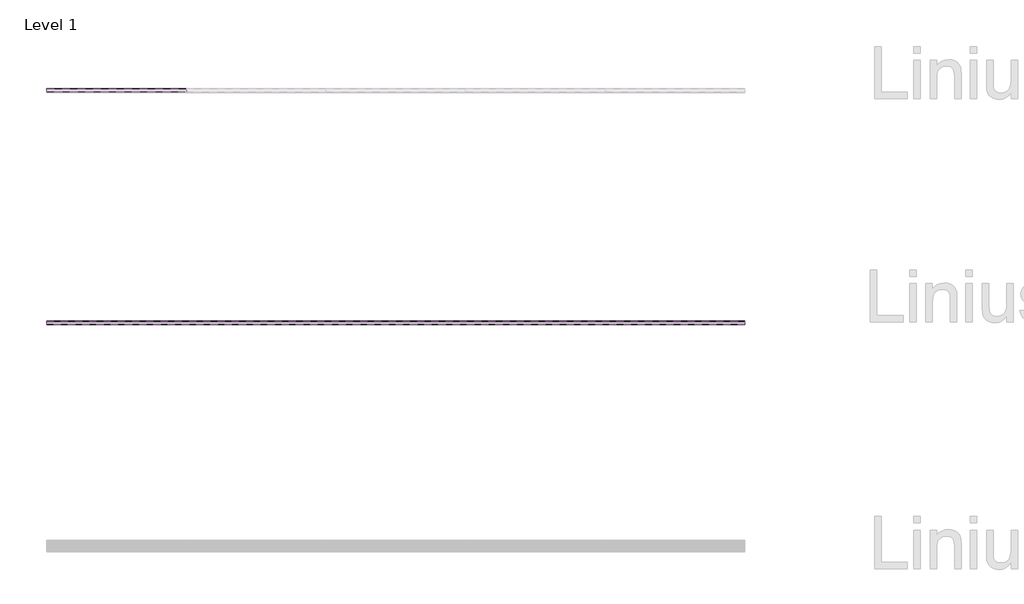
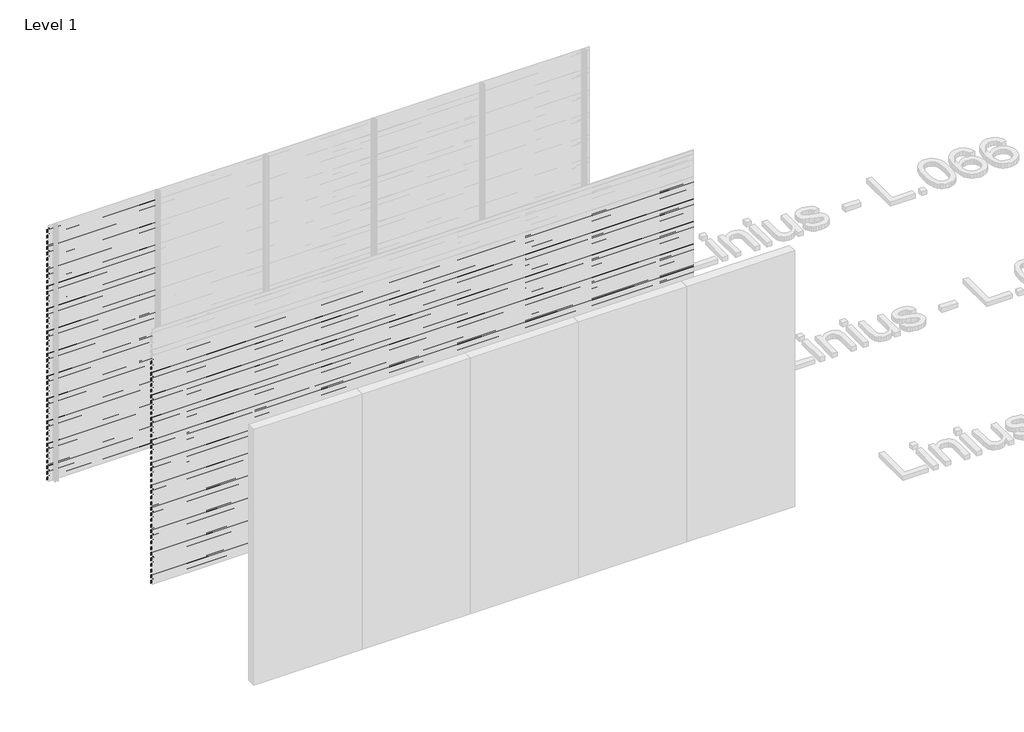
# One storey, part 55 of 540: 85 proxies.
"""IFC4 building model written with IfcOpenShell, lengths in millimetres."""

from ifc_helpers import new_model, si_unit, frame, origin, place, context, project, spatial, polyline, outline, extrude, element, save

model = new_model("IFC4")

# Units and contexts
model_context = context("Model", 3, world=origin())
ifc_project = project(units=[si_unit("LENGTHUNIT", "METRE", prefix="MILLI")], contexts=[model_context])

# Site, building, storey
site = spatial("IfcSite", under=ifc_project)
building = spatial("IfcBuilding", under=site)
storey = spatial("IfcBuildingStorey", under=building, Name="Level 1", Elevation=0.0)

# Proxies
placement = place(None, origin())
element("IfcBuildingElementProxy", 1, Name="Wall Sweeps", at=placement, inside=storey, context=model_context, shape_type="SweptSolid", body=[
    extrude(outline(polyline([(21552.8040136, 2930.0), (21552.8040136, 2897.0), (21551.5540136, 2897.7216933), (21551.5540136, 2929.2872415), (21521.8040136, 2950.0588647), (21521.8040136, 2970.0), (21523.0540136, 2970.0), (21523.0540136, 2950.7716232), (21552.8040136, 2930.0)])), frame((44966.6208097, 0.0, 0.0), z_axis=(1.0, 0.0, 0.0), x_axis=(0.0, 1.0, 0.0)), (0.0, 0.0, 1.0), 1200.0),
])
element("IfcBuildingElementProxy", 2, Name="Wall Sweeps", at=placement, inside=storey, context=model_context, shape_type="SweptSolid", body=[
    extrude(outline(polyline([(21552.8040136, 2864.0), (21552.8040136, 2831.0), (21551.5540136, 2831.7216933), (21551.5540136, 2863.2872415), (21521.8040136, 2884.0588647), (21521.8040136, 2904.0), (21523.0540136, 2904.0), (21523.0540136, 2884.7716232), (21552.8040136, 2864.0)])), frame((44966.6208097, 0.0, 0.0), z_axis=(1.0, 0.0, 0.0), x_axis=(0.0, 1.0, 0.0)), (0.0, 0.0, 1.0), 1200.0),
])
element("IfcBuildingElementProxy", 3, Name="Wall Sweeps", at=placement, inside=storey, context=model_context, shape_type="SweptSolid", body=[
    extrude(outline(polyline([(21552.8040136, 2798.0), (21552.8040136, 2765.0), (21551.5540136, 2765.7216933), (21551.5540136, 2797.2872415), (21521.8040136, 2818.0588647), (21521.8040136, 2838.0), (21523.0540136, 2838.0), (21523.0540136, 2818.7716232), (21552.8040136, 2798.0)])), frame((44966.6208097, 0.0, 0.0), z_axis=(1.0, 0.0, 0.0), x_axis=(0.0, 1.0, 0.0)), (0.0, 0.0, 1.0), 1200.0),
])
element("IfcBuildingElementProxy", 4, Name="Wall Sweeps", at=placement, inside=storey, context=model_context, shape_type="SweptSolid", body=[
    extrude(outline(polyline([(21552.8040136, 2732.0), (21552.8040136, 2699.0), (21551.5540136, 2699.7216933), (21551.5540136, 2731.2872415), (21521.8040136, 2752.0588647), (21521.8040136, 2772.0), (21523.0540136, 2772.0), (21523.0540136, 2752.7716232), (21552.8040136, 2732.0)])), frame((44966.6208097, 0.0, 0.0), z_axis=(1.0, 0.0, 0.0), x_axis=(0.0, 1.0, 0.0)), (0.0, 0.0, 1.0), 1200.0),
])
element("IfcBuildingElementProxy", 5, Name="Wall Sweeps", at=placement, inside=storey, context=model_context, shape_type="SweptSolid", body=[
    extrude(outline(polyline([(21552.8040136, 2666.0), (21552.8040136, 2633.0), (21551.5540136, 2633.7216933), (21551.5540136, 2665.2872415), (21521.8040136, 2686.0588647), (21521.8040136, 2706.0), (21523.0540136, 2706.0), (21523.0540136, 2686.7716232), (21552.8040136, 2666.0)])), frame((44966.6208097, 0.0, 0.0), z_axis=(1.0, 0.0, 0.0), x_axis=(0.0, 1.0, 0.0)), (0.0, 0.0, 1.0), 1200.0),
])
element("IfcBuildingElementProxy", 6, Name="Wall Sweeps", at=placement, inside=storey, context=model_context, shape_type="SweptSolid", body=[
    extrude(outline(polyline([(21552.8040136, 2600.0), (21552.8040136, 2567.0), (21551.5540136, 2567.7216933), (21551.5540136, 2599.2872415), (21521.8040136, 2620.0588647), (21521.8040136, 2640.0), (21523.0540136, 2640.0), (21523.0540136, 2620.7716232), (21552.8040136, 2600.0)])), frame((44966.6208097, 0.0, 0.0), z_axis=(1.0, 0.0, 0.0), x_axis=(0.0, 1.0, 0.0)), (0.0, 0.0, 1.0), 1200.0),
])
element("IfcBuildingElementProxy", 7, Name="Wall Sweeps", at=placement, inside=storey, context=model_context, shape_type="SweptSolid", body=[
    extrude(outline(polyline([(21552.8040136, 2534.0), (21552.8040136, 2501.0), (21551.5540136, 2501.7216933), (21551.5540136, 2533.2872415), (21521.8040136, 2554.0588647), (21521.8040136, 2574.0), (21523.0540136, 2574.0), (21523.0540136, 2554.7716232), (21552.8040136, 2534.0)])), frame((44966.6208097, 0.0, 0.0), z_axis=(1.0, 0.0, 0.0), x_axis=(0.0, 1.0, 0.0)), (0.0, 0.0, 1.0), 1200.0),
])
element("IfcBuildingElementProxy", 8, Name="Wall Sweeps", at=placement, inside=storey, context=model_context, shape_type="SweptSolid", body=[
    extrude(outline(polyline([(21552.8040136, 2468.0), (21552.8040136, 2435.0), (21551.5540136, 2435.7216933), (21551.5540136, 2467.2872415), (21521.8040136, 2488.0588647), (21521.8040136, 2508.0), (21523.0540136, 2508.0), (21523.0540136, 2488.7716232), (21552.8040136, 2468.0)])), frame((44966.6208097, 0.0, 0.0), z_axis=(1.0, 0.0, 0.0), x_axis=(0.0, 1.0, 0.0)), (0.0, 0.0, 1.0), 1200.0),
])
element("IfcBuildingElementProxy", 9, Name="Wall Sweeps", at=placement, inside=storey, context=model_context, shape_type="SweptSolid", body=[
    extrude(outline(polyline([(21552.8040136, 2402.0), (21552.8040136, 2369.0), (21551.5540136, 2369.7216933), (21551.5540136, 2401.2872415), (21521.8040136, 2422.0588647), (21521.8040136, 2442.0), (21523.0540136, 2442.0), (21523.0540136, 2422.7716232), (21552.8040136, 2402.0)])), frame((44966.6208097, 0.0, 0.0), z_axis=(1.0, 0.0, 0.0), x_axis=(0.0, 1.0, 0.0)), (0.0, 0.0, 1.0), 1200.0),
])
element("IfcBuildingElementProxy", 10, Name="Wall Sweeps", at=placement, inside=storey, context=model_context, shape_type="SweptSolid", body=[
    extrude(outline(polyline([(21552.8040136, 2336.0), (21552.8040136, 2303.0), (21551.5540136, 2303.7216933), (21551.5540136, 2335.2872415), (21521.8040136, 2356.0588647), (21521.8040136, 2376.0), (21523.0540136, 2376.0), (21523.0540136, 2356.7716232), (21552.8040136, 2336.0)])), frame((44966.6208097, 0.0, 0.0), z_axis=(1.0, 0.0, 0.0), x_axis=(0.0, 1.0, 0.0)), (0.0, 0.0, 1.0), 1200.0),
])
element("IfcBuildingElementProxy", 11, Name="Wall Sweeps", at=placement, inside=storey, context=model_context, shape_type="SweptSolid", body=[
    extrude(outline(polyline([(21552.8040136, 2270.0), (21552.8040136, 2237.0), (21551.5540136, 2237.7216933), (21551.5540136, 2269.2872415), (21521.8040136, 2290.0588647), (21521.8040136, 2310.0), (21523.0540136, 2310.0), (21523.0540136, 2290.7716232), (21552.8040136, 2270.0)])), frame((44966.6208097, 0.0, 0.0), z_axis=(1.0, 0.0, 0.0), x_axis=(0.0, 1.0, 0.0)), (0.0, 0.0, 1.0), 1200.0),
])
element("IfcBuildingElementProxy", 12, Name="Wall Sweeps", at=placement, inside=storey, context=model_context, shape_type="SweptSolid", body=[
    extrude(outline(polyline([(21552.8040136, 2204.0), (21552.8040136, 2171.0), (21551.5540136, 2171.7216933), (21551.5540136, 2203.2872415), (21521.8040136, 2224.0588647), (21521.8040136, 2244.0), (21523.0540136, 2244.0), (21523.0540136, 2224.7716232), (21552.8040136, 2204.0)])), frame((44966.6208097, 0.0, 0.0), z_axis=(1.0, 0.0, 0.0), x_axis=(0.0, 1.0, 0.0)), (0.0, 0.0, 1.0), 1200.0),
])
element("IfcBuildingElementProxy", 13, Name="Wall Sweeps", at=placement, inside=storey, context=model_context, shape_type="SweptSolid", body=[
    extrude(outline(polyline([(21552.8040136, 2138.0), (21552.8040136, 2105.0), (21551.5540136, 2105.7216933), (21551.5540136, 2137.2872415), (21521.8040136, 2158.0588647), (21521.8040136, 2178.0), (21523.0540136, 2178.0), (21523.0540136, 2158.7716232), (21552.8040136, 2138.0)])), frame((44966.6208097, 0.0, 0.0), z_axis=(1.0, 0.0, 0.0), x_axis=(0.0, 1.0, 0.0)), (0.0, 0.0, 1.0), 1200.0),
])
element("IfcBuildingElementProxy", 14, Name="Wall Sweeps", at=placement, inside=storey, context=model_context, shape_type="SweptSolid", body=[
    extrude(outline(polyline([(21552.8040136, 2072.0), (21552.8040136, 2039.0), (21551.5540136, 2039.7216933), (21551.5540136, 2071.2872415), (21521.8040136, 2092.0588647), (21521.8040136, 2112.0), (21523.0540136, 2112.0), (21523.0540136, 2092.7716232), (21552.8040136, 2072.0)])), frame((44966.6208097, 0.0, 0.0), z_axis=(1.0, 0.0, 0.0), x_axis=(0.0, 1.0, 0.0)), (0.0, 0.0, 1.0), 1200.0),
])
element("IfcBuildingElementProxy", 15, Name="Wall Sweeps", at=placement, inside=storey, context=model_context, shape_type="SweptSolid", body=[
    extrude(outline(polyline([(21552.8040136, 2006.0), (21552.8040136, 1973.0), (21551.5540136, 1973.7216933), (21551.5540136, 2005.2872415), (21521.8040136, 2026.0588647), (21521.8040136, 2046.0), (21523.0540136, 2046.0), (21523.0540136, 2026.7716232), (21552.8040136, 2006.0)])), frame((44966.6208097, 0.0, 0.0), z_axis=(1.0, 0.0, 0.0), x_axis=(0.0, 1.0, 0.0)), (0.0, 0.0, 1.0), 1200.0),
])
element("IfcBuildingElementProxy", 16, Name="Wall Sweeps", at=placement, inside=storey, context=model_context, shape_type="SweptSolid", body=[
    extrude(outline(polyline([(21552.8040136, 1940.0), (21552.8040136, 1907.0), (21551.5540136, 1907.7216933), (21551.5540136, 1939.2872415), (21521.8040136, 1960.0588647), (21521.8040136, 1980.0), (21523.0540136, 1980.0), (21523.0540136, 1960.7716232), (21552.8040136, 1940.0)])), frame((44966.6208097, 0.0, 0.0), z_axis=(1.0, 0.0, 0.0), x_axis=(0.0, 1.0, 0.0)), (0.0, 0.0, 1.0), 1200.0),
])
element("IfcBuildingElementProxy", 17, Name="Wall Sweeps", at=placement, inside=storey, context=model_context, shape_type="SweptSolid", body=[
    extrude(outline(polyline([(21552.8040136, 1874.0), (21552.8040136, 1841.0), (21551.5540136, 1841.7216933), (21551.5540136, 1873.2872415), (21521.8040136, 1894.0588647), (21521.8040136, 1914.0), (21523.0540136, 1914.0), (21523.0540136, 1894.7716232), (21552.8040136, 1874.0)])), frame((44966.6208097, 0.0, 0.0), z_axis=(1.0, 0.0, 0.0), x_axis=(0.0, 1.0, 0.0)), (0.0, 0.0, 1.0), 1200.0),
])
element("IfcBuildingElementProxy", 18, Name="Wall Sweeps", at=placement, inside=storey, context=model_context, shape_type="SweptSolid", body=[
    extrude(outline(polyline([(21552.8040136, 1808.0), (21552.8040136, 1775.0), (21551.5540136, 1775.7216933), (21551.5540136, 1807.2872415), (21521.8040136, 1828.0588647), (21521.8040136, 1848.0), (21523.0540136, 1848.0), (21523.0540136, 1828.7716232), (21552.8040136, 1808.0)])), frame((44966.6208097, 0.0, 0.0), z_axis=(1.0, 0.0, 0.0), x_axis=(0.0, 1.0, 0.0)), (0.0, 0.0, 1.0), 1200.0),
])
element("IfcBuildingElementProxy", 19, Name="Wall Sweeps", at=placement, inside=storey, context=model_context, shape_type="SweptSolid", body=[
    extrude(outline(polyline([(21552.8040136, 1742.0), (21552.8040136, 1709.0), (21551.5540136, 1709.7216933), (21551.5540136, 1741.2872415), (21521.8040136, 1762.0588647), (21521.8040136, 1782.0), (21523.0540136, 1782.0), (21523.0540136, 1762.7716232), (21552.8040136, 1742.0)])), frame((44966.6208097, 0.0, 0.0), z_axis=(1.0, 0.0, 0.0), x_axis=(0.0, 1.0, 0.0)), (0.0, 0.0, 1.0), 1200.0),
])
element("IfcBuildingElementProxy", 20, Name="Wall Sweeps", at=placement, inside=storey, context=model_context, shape_type="SweptSolid", body=[
    extrude(outline(polyline([(21552.8040136, 1676.0), (21552.8040136, 1643.0), (21551.5540136, 1643.7216933), (21551.5540136, 1675.2872415), (21521.8040136, 1696.0588647), (21521.8040136, 1716.0), (21523.0540136, 1716.0), (21523.0540136, 1696.7716232), (21552.8040136, 1676.0)])), frame((44966.6208097, 0.0, 0.0), z_axis=(1.0, 0.0, 0.0), x_axis=(0.0, 1.0, 0.0)), (0.0, 0.0, 1.0), 1200.0),
])
element("IfcBuildingElementProxy", 21, Name="Wall Sweeps", at=placement, inside=storey, context=model_context, shape_type="SweptSolid", body=[
    extrude(outline(polyline([(21552.8040136, 1610.0), (21552.8040136, 1577.0), (21551.5540136, 1577.7216933), (21551.5540136, 1609.2872415), (21521.8040136, 1630.0588647), (21521.8040136, 1650.0), (21523.0540136, 1650.0), (21523.0540136, 1630.7716232), (21552.8040136, 1610.0)])), frame((44966.6208097, 0.0, 0.0), z_axis=(1.0, 0.0, 0.0), x_axis=(0.0, 1.0, 0.0)), (0.0, 0.0, 1.0), 1200.0),
])
element("IfcBuildingElementProxy", 22, Name="Wall Sweeps", at=placement, inside=storey, context=model_context, shape_type="SweptSolid", body=[
    extrude(outline(polyline([(21552.8040136, 1544.0), (21552.8040136, 1511.0), (21551.5540136, 1511.7216933), (21551.5540136, 1543.2872415), (21521.8040136, 1564.0588647), (21521.8040136, 1584.0), (21523.0540136, 1584.0), (21523.0540136, 1564.7716232), (21552.8040136, 1544.0)])), frame((44966.6208097, 0.0, 0.0), z_axis=(1.0, 0.0, 0.0), x_axis=(0.0, 1.0, 0.0)), (0.0, 0.0, 1.0), 1200.0),
])
element("IfcBuildingElementProxy", 23, Name="Wall Sweeps", at=placement, inside=storey, context=model_context, shape_type="SweptSolid", body=[
    extrude(outline(polyline([(21552.8040136, 1478.0), (21552.8040136, 1445.0), (21551.5540136, 1445.7216933), (21551.5540136, 1477.2872415), (21521.8040136, 1498.0588647), (21521.8040136, 1518.0), (21523.0540136, 1518.0), (21523.0540136, 1498.7716232), (21552.8040136, 1478.0)])), frame((44966.6208097, 0.0, 0.0), z_axis=(1.0, 0.0, 0.0), x_axis=(0.0, 1.0, 0.0)), (0.0, 0.0, 1.0), 1200.0),
])
element("IfcBuildingElementProxy", 24, Name="Wall Sweeps", at=placement, inside=storey, context=model_context, shape_type="SweptSolid", body=[
    extrude(outline(polyline([(21552.8040136, 1412.0), (21552.8040136, 1379.0), (21551.5540136, 1379.7216933), (21551.5540136, 1411.2872415), (21521.8040136, 1432.0588647), (21521.8040136, 1452.0), (21523.0540136, 1452.0), (21523.0540136, 1432.7716232), (21552.8040136, 1412.0)])), frame((44966.6208097, 0.0, 0.0), z_axis=(1.0, 0.0, 0.0), x_axis=(0.0, 1.0, 0.0)), (0.0, 0.0, 1.0), 1200.0),
])
element("IfcBuildingElementProxy", 25, Name="Wall Sweeps", at=placement, inside=storey, context=model_context, shape_type="SweptSolid", body=[
    extrude(outline(polyline([(21552.8040136, 1346.0), (21552.8040136, 1313.0), (21551.5540136, 1313.7216933), (21551.5540136, 1345.2872415), (21521.8040136, 1366.0588647), (21521.8040136, 1386.0), (21523.0540136, 1386.0), (21523.0540136, 1366.7716232), (21552.8040136, 1346.0)])), frame((44966.6208097, 0.0, 0.0), z_axis=(1.0, 0.0, 0.0), x_axis=(0.0, 1.0, 0.0)), (0.0, 0.0, 1.0), 1200.0),
])
element("IfcBuildingElementProxy", 26, Name="Wall Sweeps", at=placement, inside=storey, context=model_context, shape_type="SweptSolid", body=[
    extrude(outline(polyline([(21552.8040136, 1280.0), (21552.8040136, 1247.0), (21551.5540136, 1247.7216933), (21551.5540136, 1279.2872415), (21521.8040136, 1300.0588647), (21521.8040136, 1320.0), (21523.0540136, 1320.0), (21523.0540136, 1300.7716232), (21552.8040136, 1280.0)])), frame((44966.6208097, 0.0, 0.0), z_axis=(1.0, 0.0, 0.0), x_axis=(0.0, 1.0, 0.0)), (0.0, 0.0, 1.0), 1200.0),
])
element("IfcBuildingElementProxy", 27, Name="Wall Sweeps", at=placement, inside=storey, context=model_context, shape_type="SweptSolid", body=[
    extrude(outline(polyline([(21552.8040136, 1214.0), (21552.8040136, 1181.0), (21551.5540136, 1181.7216933), (21551.5540136, 1213.2872415), (21521.8040136, 1234.0588647), (21521.8040136, 1254.0), (21523.0540136, 1254.0), (21523.0540136, 1234.7716232), (21552.8040136, 1214.0)])), frame((44966.6208097, 0.0, 0.0), z_axis=(1.0, 0.0, 0.0), x_axis=(0.0, 1.0, 0.0)), (0.0, 0.0, 1.0), 1200.0),
])
element("IfcBuildingElementProxy", 28, Name="Wall Sweeps", at=placement, inside=storey, context=model_context, shape_type="SweptSolid", body=[
    extrude(outline(polyline([(21552.8040136, 1148.0), (21552.8040136, 1115.0), (21551.5540136, 1115.7216933), (21551.5540136, 1147.2872415), (21521.8040136, 1168.0588647), (21521.8040136, 1188.0), (21523.0540136, 1188.0), (21523.0540136, 1168.7716232), (21552.8040136, 1148.0)])), frame((44966.6208097, 0.0, 0.0), z_axis=(1.0, 0.0, 0.0), x_axis=(0.0, 1.0, 0.0)), (0.0, 0.0, 1.0), 1200.0),
])
element("IfcBuildingElementProxy", 29, Name="Wall Sweeps", at=placement, inside=storey, context=model_context, shape_type="SweptSolid", body=[
    extrude(outline(polyline([(21552.8040136, 1082.0), (21552.8040136, 1049.0), (21551.5540136, 1049.7216933), (21551.5540136, 1081.2872415), (21521.8040136, 1102.0588647), (21521.8040136, 1122.0), (21523.0540136, 1122.0), (21523.0540136, 1102.7716232), (21552.8040136, 1082.0)])), frame((44966.6208097, 0.0, 0.0), z_axis=(1.0, 0.0, 0.0), x_axis=(0.0, 1.0, 0.0)), (0.0, 0.0, 1.0), 1200.0),
])
element("IfcBuildingElementProxy", 30, Name="Wall Sweeps", at=placement, inside=storey, context=model_context, shape_type="SweptSolid", body=[
    extrude(outline(polyline([(21552.8040136, 1016.0), (21552.8040136, 983.0), (21551.5540136, 983.7216933), (21551.5540136, 1015.2872415), (21521.8040136, 1036.0588647), (21521.8040136, 1056.0), (21523.0540136, 1056.0), (21523.0540136, 1036.7716232), (21552.8040136, 1016.0)])), frame((44966.6208097, 0.0, 0.0), z_axis=(1.0, 0.0, 0.0), x_axis=(0.0, 1.0, 0.0)), (0.0, 0.0, 1.0), 1200.0),
])
element("IfcBuildingElementProxy", 31, Name="Wall Sweeps", at=placement, inside=storey, context=model_context, shape_type="SweptSolid", body=[
    extrude(outline(polyline([(21552.8040136, 950.0), (21552.8040136, 917.0), (21551.5540136, 917.7216933), (21551.5540136, 949.2872415), (21521.8040136, 970.0588647), (21521.8040136, 990.0), (21523.0540136, 990.0), (21523.0540136, 970.7716232), (21552.8040136, 950.0)])), frame((44966.6208097, 0.0, 0.0), z_axis=(1.0, 0.0, 0.0), x_axis=(0.0, 1.0, 0.0)), (0.0, 0.0, 1.0), 1200.0),
])
element("IfcBuildingElementProxy", 32, Name="Wall Sweeps", at=placement, inside=storey, context=model_context, shape_type="SweptSolid", body=[
    extrude(outline(polyline([(21552.8040136, 884.0), (21552.8040136, 851.0), (21551.5540136, 851.7216933), (21551.5540136, 883.2872415), (21521.8040136, 904.0588647), (21521.8040136, 924.0), (21523.0540136, 924.0), (21523.0540136, 904.7716232), (21552.8040136, 884.0)])), frame((44966.6208097, 0.0, 0.0), z_axis=(1.0, 0.0, 0.0), x_axis=(0.0, 1.0, 0.0)), (0.0, 0.0, 1.0), 1200.0),
])
element("IfcBuildingElementProxy", 33, Name="Wall Sweeps", at=placement, inside=storey, context=model_context, shape_type="SweptSolid", body=[
    extrude(outline(polyline([(21552.8040136, 818.0), (21552.8040136, 785.0), (21551.5540136, 785.7216933), (21551.5540136, 817.2872415), (21521.8040136, 838.0588647), (21521.8040136, 858.0), (21523.0540136, 858.0), (21523.0540136, 838.7716232), (21552.8040136, 818.0)])), frame((44966.6208097, 0.0, 0.0), z_axis=(1.0, 0.0, 0.0), x_axis=(0.0, 1.0, 0.0)), (0.0, 0.0, 1.0), 1200.0),
])
element("IfcBuildingElementProxy", 34, Name="Wall Sweeps", at=placement, inside=storey, context=model_context, shape_type="SweptSolid", body=[
    extrude(outline(polyline([(21552.8040136, 752.0), (21552.8040136, 719.0), (21551.5540136, 719.7216933), (21551.5540136, 751.2872415), (21521.8040136, 772.0588647), (21521.8040136, 792.0), (21523.0540136, 792.0), (21523.0540136, 772.7716232), (21552.8040136, 752.0)])), frame((44966.6208097, 0.0, 0.0), z_axis=(1.0, 0.0, 0.0), x_axis=(0.0, 1.0, 0.0)), (0.0, 0.0, 1.0), 1200.0),
])
element("IfcBuildingElementProxy", 35, Name="Wall Sweeps", at=placement, inside=storey, context=model_context, shape_type="SweptSolid", body=[
    extrude(outline(polyline([(21552.8040136, 686.0), (21552.8040136, 653.0), (21551.5540136, 653.7216933), (21551.5540136, 685.2872415), (21521.8040136, 706.0588647), (21521.8040136, 726.0), (21523.0540136, 726.0), (21523.0540136, 706.7716232), (21552.8040136, 686.0)])), frame((44966.6208097, 0.0, 0.0), z_axis=(1.0, 0.0, 0.0), x_axis=(0.0, 1.0, 0.0)), (0.0, 0.0, 1.0), 1200.0),
])
element("IfcBuildingElementProxy", 36, Name="Wall Sweeps", at=placement, inside=storey, context=model_context, shape_type="SweptSolid", body=[
    extrude(outline(polyline([(21552.8040136, 620.0), (21552.8040136, 587.0), (21551.5540136, 587.7216933), (21551.5540136, 619.2872415), (21521.8040136, 640.0588647), (21521.8040136, 660.0), (21523.0540136, 660.0), (21523.0540136, 640.7716232), (21552.8040136, 620.0)])), frame((44966.6208097, 0.0, 0.0), z_axis=(1.0, 0.0, 0.0), x_axis=(0.0, 1.0, 0.0)), (0.0, 0.0, 1.0), 1200.0),
])
element("IfcBuildingElementProxy", 37, Name="Wall Sweeps", at=placement, inside=storey, context=model_context, shape_type="SweptSolid", body=[
    extrude(outline(polyline([(21552.8040136, 554.0), (21552.8040136, 521.0), (21551.5540136, 521.7216933), (21551.5540136, 553.2872415), (21521.8040136, 574.0588647), (21521.8040136, 594.0), (21523.0540136, 594.0), (21523.0540136, 574.7716232), (21552.8040136, 554.0)])), frame((44966.6208097, 0.0, 0.0), z_axis=(1.0, 0.0, 0.0), x_axis=(0.0, 1.0, 0.0)), (0.0, 0.0, 1.0), 1200.0),
])
element("IfcBuildingElementProxy", 38, Name="Wall Sweeps", at=placement, inside=storey, context=model_context, shape_type="SweptSolid", body=[
    extrude(outline(polyline([(21552.8040136, 488.0), (21552.8040136, 455.0), (21551.5540136, 455.7216933), (21551.5540136, 487.2872415), (21521.8040136, 508.0588647), (21521.8040136, 528.0), (21523.0540136, 528.0), (21523.0540136, 508.7716232), (21552.8040136, 488.0)])), frame((44966.6208097, 0.0, 0.0), z_axis=(1.0, 0.0, 0.0), x_axis=(0.0, 1.0, 0.0)), (0.0, 0.0, 1.0), 1200.0),
])
element("IfcBuildingElementProxy", 39, Name="Wall Sweeps", at=placement, inside=storey, context=model_context, shape_type="SweptSolid", body=[
    extrude(outline(polyline([(21552.8040136, 422.0), (21552.8040136, 389.0), (21551.5540136, 389.7216933), (21551.5540136, 421.2872415), (21521.8040136, 442.0588647), (21521.8040136, 462.0), (21523.0540136, 462.0), (21523.0540136, 442.7716232), (21552.8040136, 422.0)])), frame((44966.6208097, 0.0, 0.0), z_axis=(1.0, 0.0, 0.0), x_axis=(0.0, 1.0, 0.0)), (0.0, 0.0, 1.0), 1200.0),
])
element("IfcBuildingElementProxy", 40, Name="Wall Sweeps", at=placement, inside=storey, context=model_context, shape_type="SweptSolid", body=[
    extrude(outline(polyline([(21552.8040136, 356.0), (21552.8040136, 323.0), (21551.5540136, 323.7216933), (21551.5540136, 355.2872415), (21521.8040136, 376.0588647), (21521.8040136, 396.0), (21523.0540136, 396.0), (21523.0540136, 376.7716232), (21552.8040136, 356.0)])), frame((44966.6208097, 0.0, 0.0), z_axis=(1.0, 0.0, 0.0), x_axis=(0.0, 1.0, 0.0)), (0.0, 0.0, 1.0), 1200.0),
])
element("IfcBuildingElementProxy", 41, Name="Wall Sweeps", at=placement, inside=storey, context=model_context, shape_type="SweptSolid", body=[
    extrude(outline(polyline([(21552.8040136, 290.0), (21552.8040136, 257.0), (21551.5540136, 257.7216933), (21551.5540136, 289.2872415), (21521.8040136, 310.0588647), (21521.8040136, 330.0), (21523.0540136, 330.0), (21523.0540136, 310.7716232), (21552.8040136, 290.0)])), frame((44966.6208097, 0.0, 0.0), z_axis=(1.0, 0.0, 0.0), x_axis=(0.0, 1.0, 0.0)), (0.0, 0.0, 1.0), 1200.0),
])
element("IfcBuildingElementProxy", 42, Name="Wall Sweeps", at=placement, inside=storey, context=model_context, shape_type="SweptSolid", body=[
    extrude(outline(polyline([(21552.8040136, 224.0), (21552.8040136, 191.0), (21551.5540136, 191.7216933), (21551.5540136, 223.2872415), (21521.8040136, 244.0588647), (21521.8040136, 264.0), (21523.0540136, 264.0), (21523.0540136, 244.7716232), (21552.8040136, 224.0)])), frame((44966.6208097, 0.0, 0.0), z_axis=(1.0, 0.0, 0.0), x_axis=(0.0, 1.0, 0.0)), (0.0, 0.0, 1.0), 1200.0),
])
element("IfcBuildingElementProxy", 43, Name="Wall Sweeps", at=placement, inside=storey, context=model_context, shape_type="SweptSolid", body=[
    extrude(outline(polyline([(21552.8040136, 158.0), (21552.8040136, 125.0), (21551.5540136, 125.7216933), (21551.5540136, 157.2872415), (21521.8040136, 178.0588647), (21521.8040136, 198.0), (21523.0540136, 198.0), (21523.0540136, 178.7716232), (21552.8040136, 158.0)])), frame((44966.6208097, 0.0, 0.0), z_axis=(1.0, 0.0, 0.0), x_axis=(0.0, 1.0, 0.0)), (0.0, 0.0, 1.0), 1200.0),
])
element("IfcBuildingElementProxy", 44, Name="Wall Sweeps", at=placement, inside=storey, context=model_context, shape_type="SweptSolid", body=[
    extrude(outline(polyline([(21552.8040136, 92.0), (21552.8040136, 59.0), (21551.5540136, 59.7216933), (21551.5540136, 91.2872415), (21521.8040136, 112.0588647), (21521.8040136, 132.0), (21523.0540136, 132.0), (21523.0540136, 112.7716232), (21552.8040136, 92.0)])), frame((44966.6208097, 0.0, 0.0), z_axis=(1.0, 0.0, 0.0), x_axis=(0.0, 1.0, 0.0)), (0.0, 0.0, 1.0), 1200.0),
])
element("IfcBuildingElementProxy", 45, Name="Wall Sweeps", at=placement, inside=storey, context=model_context, shape_type="SweptSolid", body=[
    extrude(outline(polyline([(21552.8040136, 26.0), (21552.8040136, -7.0), (21551.5540136, -6.2783067), (21551.5540136, 25.2872415), (21521.8040136, 46.0588647), (21521.8040136, 66.0), (21523.0540136, 66.0), (21523.0540136, 46.7716232), (21552.8040136, 26.0)])), frame((44966.6208097, 0.0, 0.0), z_axis=(1.0, 0.0, 0.0), x_axis=(0.0, 1.0, 0.0)), (0.0, 0.0, 1.0), 1200.0),
])
element("IfcBuildingElementProxy", 46, Name="Wall Sweeps", at=placement, inside=storey, context=model_context, shape_type="SweptSolid", body=[
    extrude(outline(polyline([(19552.8040136, 2600.0), (19552.8040136, 2567.0), (19551.5540136, 2567.7216933), (19551.5540136, 2599.2872415), (19521.8040136, 2620.0588647), (19521.8040136, 2640.0), (19523.0540136, 2640.0), (19523.0540136, 2620.7716232), (19552.8040136, 2600.0)])), frame((44966.6208097, 0.0, 0.0), z_axis=(1.0, 0.0, 0.0), x_axis=(0.0, 1.0, 0.0)), (0.0, 0.0, 1.0), 6000.0),
])
element("IfcBuildingElementProxy", 47, Name="Wall Sweeps", at=placement, inside=storey, context=model_context, shape_type="SweptSolid", body=[
    extrude(outline(polyline([(19552.8040136, 2534.0), (19552.8040136, 2501.0), (19551.5540136, 2501.7216933), (19551.5540136, 2533.2872415), (19521.8040136, 2554.0588647), (19521.8040136, 2574.0), (19523.0540136, 2574.0), (19523.0540136, 2554.7716232), (19552.8040136, 2534.0)])), frame((44966.6208097, 0.0, 0.0), z_axis=(1.0, 0.0, 0.0), x_axis=(0.0, 1.0, 0.0)), (0.0, 0.0, 1.0), 6000.0),
])
element("IfcBuildingElementProxy", 48, Name="Wall Sweeps", at=placement, inside=storey, context=model_context, shape_type="SweptSolid", body=[
    extrude(outline(polyline([(19552.8040136, 2468.0), (19552.8040136, 2435.0), (19551.5540136, 2435.7216933), (19551.5540136, 2467.2872415), (19521.8040136, 2488.0588647), (19521.8040136, 2508.0), (19523.0540136, 2508.0), (19523.0540136, 2488.7716232), (19552.8040136, 2468.0)])), frame((44966.6208097, 0.0, 0.0), z_axis=(1.0, 0.0, 0.0), x_axis=(0.0, 1.0, 0.0)), (0.0, 0.0, 1.0), 6000.0),
])
element("IfcBuildingElementProxy", 49, Name="Wall Sweeps", at=placement, inside=storey, context=model_context, shape_type="SweptSolid", body=[
    extrude(outline(polyline([(19552.8040136, 2402.0), (19552.8040136, 2369.0), (19551.5540136, 2369.7216933), (19551.5540136, 2401.2872415), (19521.8040136, 2422.0588647), (19521.8040136, 2442.0), (19523.0540136, 2442.0), (19523.0540136, 2422.7716232), (19552.8040136, 2402.0)])), frame((44966.6208097, 0.0, 0.0), z_axis=(1.0, 0.0, 0.0), x_axis=(0.0, 1.0, 0.0)), (0.0, 0.0, 1.0), 6000.0),
])
element("IfcBuildingElementProxy", 50, Name="Wall Sweeps", at=placement, inside=storey, context=model_context, shape_type="SweptSolid", body=[
    extrude(outline(polyline([(19552.8040136, 2336.0), (19552.8040136, 2303.0), (19551.5540136, 2303.7216933), (19551.5540136, 2335.2872415), (19521.8040136, 2356.0588647), (19521.8040136, 2376.0), (19523.0540136, 2376.0), (19523.0540136, 2356.7716232), (19552.8040136, 2336.0)])), frame((44966.6208097, 0.0, 0.0), z_axis=(1.0, 0.0, 0.0), x_axis=(0.0, 1.0, 0.0)), (0.0, 0.0, 1.0), 6000.0),
])
element("IfcBuildingElementProxy", 51, Name="Wall Sweeps", at=placement, inside=storey, context=model_context, shape_type="SweptSolid", body=[
    extrude(outline(polyline([(19552.8040136, 2270.0), (19552.8040136, 2237.0), (19551.5540136, 2237.7216933), (19551.5540136, 2269.2872415), (19521.8040136, 2290.0588647), (19521.8040136, 2310.0), (19523.0540136, 2310.0), (19523.0540136, 2290.7716232), (19552.8040136, 2270.0)])), frame((44966.6208097, 0.0, 0.0), z_axis=(1.0, 0.0, 0.0), x_axis=(0.0, 1.0, 0.0)), (0.0, 0.0, 1.0), 6000.0),
])
element("IfcBuildingElementProxy", 52, Name="Wall Sweeps", at=placement, inside=storey, context=model_context, shape_type="SweptSolid", body=[
    extrude(outline(polyline([(19552.8040136, 2204.0), (19552.8040136, 2171.0), (19551.5540136, 2171.7216933), (19551.5540136, 2203.2872415), (19521.8040136, 2224.0588647), (19521.8040136, 2244.0), (19523.0540136, 2244.0), (19523.0540136, 2224.7716232), (19552.8040136, 2204.0)])), frame((44966.6208097, 0.0, 0.0), z_axis=(1.0, 0.0, 0.0), x_axis=(0.0, 1.0, 0.0)), (0.0, 0.0, 1.0), 6000.0),
])
element("IfcBuildingElementProxy", 53, Name="Wall Sweeps", at=placement, inside=storey, context=model_context, shape_type="SweptSolid", body=[
    extrude(outline(polyline([(19552.8040136, 2138.0), (19552.8040136, 2105.0), (19551.5540136, 2105.7216933), (19551.5540136, 2137.2872415), (19521.8040136, 2158.0588647), (19521.8040136, 2178.0), (19523.0540136, 2178.0), (19523.0540136, 2158.7716232), (19552.8040136, 2138.0)])), frame((44966.6208097, 0.0, 0.0), z_axis=(1.0, 0.0, 0.0), x_axis=(0.0, 1.0, 0.0)), (0.0, 0.0, 1.0), 6000.0),
])
element("IfcBuildingElementProxy", 54, Name="Wall Sweeps", at=placement, inside=storey, context=model_context, shape_type="SweptSolid", body=[
    extrude(outline(polyline([(19552.8040136, 2072.0), (19552.8040136, 2039.0), (19551.5540136, 2039.7216933), (19551.5540136, 2071.2872415), (19521.8040136, 2092.0588647), (19521.8040136, 2112.0), (19523.0540136, 2112.0), (19523.0540136, 2092.7716232), (19552.8040136, 2072.0)])), frame((44966.6208097, 0.0, 0.0), z_axis=(1.0, 0.0, 0.0), x_axis=(0.0, 1.0, 0.0)), (0.0, 0.0, 1.0), 6000.0),
])
element("IfcBuildingElementProxy", 55, Name="Wall Sweeps", at=placement, inside=storey, context=model_context, shape_type="SweptSolid", body=[
    extrude(outline(polyline([(19552.8040136, 2006.0), (19552.8040136, 1973.0), (19551.5540136, 1973.7216933), (19551.5540136, 2005.2872415), (19521.8040136, 2026.0588647), (19521.8040136, 2046.0), (19523.0540136, 2046.0), (19523.0540136, 2026.7716232), (19552.8040136, 2006.0)])), frame((44966.6208097, 0.0, 0.0), z_axis=(1.0, 0.0, 0.0), x_axis=(0.0, 1.0, 0.0)), (0.0, 0.0, 1.0), 6000.0),
])
element("IfcBuildingElementProxy", 56, Name="Wall Sweeps", at=placement, inside=storey, context=model_context, shape_type="SweptSolid", body=[
    extrude(outline(polyline([(19552.8040136, 1940.0), (19552.8040136, 1907.0), (19551.5540136, 1907.7216933), (19551.5540136, 1939.2872415), (19521.8040136, 1960.0588647), (19521.8040136, 1980.0), (19523.0540136, 1980.0), (19523.0540136, 1960.7716232), (19552.8040136, 1940.0)])), frame((44966.6208097, 0.0, 0.0), z_axis=(1.0, 0.0, 0.0), x_axis=(0.0, 1.0, 0.0)), (0.0, 0.0, 1.0), 6000.0),
])
element("IfcBuildingElementProxy", 57, Name="Wall Sweeps", at=placement, inside=storey, context=model_context, shape_type="SweptSolid", body=[
    extrude(outline(polyline([(19552.8040136, 1874.0), (19552.8040136, 1841.0), (19551.5540136, 1841.7216933), (19551.5540136, 1873.2872415), (19521.8040136, 1894.0588647), (19521.8040136, 1914.0), (19523.0540136, 1914.0), (19523.0540136, 1894.7716232), (19552.8040136, 1874.0)])), frame((44966.6208097, 0.0, 0.0), z_axis=(1.0, 0.0, 0.0), x_axis=(0.0, 1.0, 0.0)), (0.0, 0.0, 1.0), 6000.0),
])
element("IfcBuildingElementProxy", 58, Name="Wall Sweeps", at=placement, inside=storey, context=model_context, shape_type="SweptSolid", body=[
    extrude(outline(polyline([(19552.8040136, 1808.0), (19552.8040136, 1775.0), (19551.5540136, 1775.7216933), (19551.5540136, 1807.2872415), (19521.8040136, 1828.0588647), (19521.8040136, 1848.0), (19523.0540136, 1848.0), (19523.0540136, 1828.7716232), (19552.8040136, 1808.0)])), frame((44966.6208097, 0.0, 0.0), z_axis=(1.0, 0.0, 0.0), x_axis=(0.0, 1.0, 0.0)), (0.0, 0.0, 1.0), 6000.0),
])
element("IfcBuildingElementProxy", 59, Name="Wall Sweeps", at=placement, inside=storey, context=model_context, shape_type="SweptSolid", body=[
    extrude(outline(polyline([(19552.8040136, 1742.0), (19552.8040136, 1709.0), (19551.5540136, 1709.7216933), (19551.5540136, 1741.2872415), (19521.8040136, 1762.0588647), (19521.8040136, 1782.0), (19523.0540136, 1782.0), (19523.0540136, 1762.7716232), (19552.8040136, 1742.0)])), frame((44966.6208097, 0.0, 0.0), z_axis=(1.0, 0.0, 0.0), x_axis=(0.0, 1.0, 0.0)), (0.0, 0.0, 1.0), 6000.0),
])
element("IfcBuildingElementProxy", 60, Name="Wall Sweeps", at=placement, inside=storey, context=model_context, shape_type="SweptSolid", body=[
    extrude(outline(polyline([(19552.8040136, 1676.0), (19552.8040136, 1643.0), (19551.5540136, 1643.7216933), (19551.5540136, 1675.2872415), (19521.8040136, 1696.0588647), (19521.8040136, 1716.0), (19523.0540136, 1716.0), (19523.0540136, 1696.7716232), (19552.8040136, 1676.0)])), frame((44966.6208097, 0.0, 0.0), z_axis=(1.0, 0.0, 0.0), x_axis=(0.0, 1.0, 0.0)), (0.0, 0.0, 1.0), 6000.0),
])
element("IfcBuildingElementProxy", 61, Name="Wall Sweeps", at=placement, inside=storey, context=model_context, shape_type="SweptSolid", body=[
    extrude(outline(polyline([(19552.8040136, 1610.0), (19552.8040136, 1577.0), (19551.5540136, 1577.7216933), (19551.5540136, 1609.2872415), (19521.8040136, 1630.0588647), (19521.8040136, 1650.0), (19523.0540136, 1650.0), (19523.0540136, 1630.7716232), (19552.8040136, 1610.0)])), frame((44966.6208097, 0.0, 0.0), z_axis=(1.0, 0.0, 0.0), x_axis=(0.0, 1.0, 0.0)), (0.0, 0.0, 1.0), 6000.0),
])
element("IfcBuildingElementProxy", 62, Name="Wall Sweeps", at=placement, inside=storey, context=model_context, shape_type="SweptSolid", body=[
    extrude(outline(polyline([(19552.8040136, 1544.0), (19552.8040136, 1511.0), (19551.5540136, 1511.7216933), (19551.5540136, 1543.2872415), (19521.8040136, 1564.0588647), (19521.8040136, 1584.0), (19523.0540136, 1584.0), (19523.0540136, 1564.7716232), (19552.8040136, 1544.0)])), frame((44966.6208097, 0.0, 0.0), z_axis=(1.0, 0.0, 0.0), x_axis=(0.0, 1.0, 0.0)), (0.0, 0.0, 1.0), 6000.0),
])
element("IfcBuildingElementProxy", 63, Name="Wall Sweeps", at=placement, inside=storey, context=model_context, shape_type="SweptSolid", body=[
    extrude(outline(polyline([(19552.8040136, 1478.0), (19552.8040136, 1445.0), (19551.5540136, 1445.7216933), (19551.5540136, 1477.2872415), (19521.8040136, 1498.0588647), (19521.8040136, 1518.0), (19523.0540136, 1518.0), (19523.0540136, 1498.7716232), (19552.8040136, 1478.0)])), frame((44966.6208097, 0.0, 0.0), z_axis=(1.0, 0.0, 0.0), x_axis=(0.0, 1.0, 0.0)), (0.0, 0.0, 1.0), 6000.0),
])
element("IfcBuildingElementProxy", 64, Name="Wall Sweeps", at=placement, inside=storey, context=model_context, shape_type="SweptSolid", body=[
    extrude(outline(polyline([(19552.8040136, 1412.0), (19552.8040136, 1379.0), (19551.5540136, 1379.7216933), (19551.5540136, 1411.2872415), (19521.8040136, 1432.0588647), (19521.8040136, 1452.0), (19523.0540136, 1452.0), (19523.0540136, 1432.7716232), (19552.8040136, 1412.0)])), frame((44966.6208097, 0.0, 0.0), z_axis=(1.0, 0.0, 0.0), x_axis=(0.0, 1.0, 0.0)), (0.0, 0.0, 1.0), 6000.0),
])
element("IfcBuildingElementProxy", 65, Name="Wall Sweeps", at=placement, inside=storey, context=model_context, shape_type="SweptSolid", body=[
    extrude(outline(polyline([(19552.8040136, 1346.0), (19552.8040136, 1313.0), (19551.5540136, 1313.7216933), (19551.5540136, 1345.2872415), (19521.8040136, 1366.0588647), (19521.8040136, 1386.0), (19523.0540136, 1386.0), (19523.0540136, 1366.7716232), (19552.8040136, 1346.0)])), frame((44966.6208097, 0.0, 0.0), z_axis=(1.0, 0.0, 0.0), x_axis=(0.0, 1.0, 0.0)), (0.0, 0.0, 1.0), 6000.0),
])
element("IfcBuildingElementProxy", 66, Name="Wall Sweeps", at=placement, inside=storey, context=model_context, shape_type="SweptSolid", body=[
    extrude(outline(polyline([(19552.8040136, 1280.0), (19552.8040136, 1247.0), (19551.5540136, 1247.7216933), (19551.5540136, 1279.2872415), (19521.8040136, 1300.0588647), (19521.8040136, 1320.0), (19523.0540136, 1320.0), (19523.0540136, 1300.7716232), (19552.8040136, 1280.0)])), frame((44966.6208097, 0.0, 0.0), z_axis=(1.0, 0.0, 0.0), x_axis=(0.0, 1.0, 0.0)), (0.0, 0.0, 1.0), 6000.0),
])
element("IfcBuildingElementProxy", 67, Name="Wall Sweeps", at=placement, inside=storey, context=model_context, shape_type="SweptSolid", body=[
    extrude(outline(polyline([(19552.8040136, 1214.0), (19552.8040136, 1181.0), (19551.5540136, 1181.7216933), (19551.5540136, 1213.2872415), (19521.8040136, 1234.0588647), (19521.8040136, 1254.0), (19523.0540136, 1254.0), (19523.0540136, 1234.7716232), (19552.8040136, 1214.0)])), frame((44966.6208097, 0.0, 0.0), z_axis=(1.0, 0.0, 0.0), x_axis=(0.0, 1.0, 0.0)), (0.0, 0.0, 1.0), 6000.0),
])
element("IfcBuildingElementProxy", 68, Name="Wall Sweeps", at=placement, inside=storey, context=model_context, shape_type="SweptSolid", body=[
    extrude(outline(polyline([(19552.8040136, 1148.0), (19552.8040136, 1115.0), (19551.5540136, 1115.7216933), (19551.5540136, 1147.2872415), (19521.8040136, 1168.0588647), (19521.8040136, 1188.0), (19523.0540136, 1188.0), (19523.0540136, 1168.7716232), (19552.8040136, 1148.0)])), frame((44966.6208097, 0.0, 0.0), z_axis=(1.0, 0.0, 0.0), x_axis=(0.0, 1.0, 0.0)), (0.0, 0.0, 1.0), 6000.0),
])
element("IfcBuildingElementProxy", 69, Name="Wall Sweeps", at=placement, inside=storey, context=model_context, shape_type="SweptSolid", body=[
    extrude(outline(polyline([(19552.8040136, 1082.0), (19552.8040136, 1049.0), (19551.5540136, 1049.7216933), (19551.5540136, 1081.2872415), (19521.8040136, 1102.0588647), (19521.8040136, 1122.0), (19523.0540136, 1122.0), (19523.0540136, 1102.7716232), (19552.8040136, 1082.0)])), frame((44966.6208097, 0.0, 0.0), z_axis=(1.0, 0.0, 0.0), x_axis=(0.0, 1.0, 0.0)), (0.0, 0.0, 1.0), 6000.0),
])
element("IfcBuildingElementProxy", 70, Name="Wall Sweeps", at=placement, inside=storey, context=model_context, shape_type="SweptSolid", body=[
    extrude(outline(polyline([(19552.8040136, 1016.0), (19552.8040136, 983.0), (19551.5540136, 983.7216933), (19551.5540136, 1015.2872415), (19521.8040136, 1036.0588647), (19521.8040136, 1056.0), (19523.0540136, 1056.0), (19523.0540136, 1036.7716232), (19552.8040136, 1016.0)])), frame((44966.6208097, 0.0, 0.0), z_axis=(1.0, 0.0, 0.0), x_axis=(0.0, 1.0, 0.0)), (0.0, 0.0, 1.0), 6000.0),
])
element("IfcBuildingElementProxy", 71, Name="Wall Sweeps", at=placement, inside=storey, context=model_context, shape_type="SweptSolid", body=[
    extrude(outline(polyline([(19552.8040136, 950.0), (19552.8040136, 917.0), (19551.5540136, 917.7216933), (19551.5540136, 949.2872415), (19521.8040136, 970.0588647), (19521.8040136, 990.0), (19523.0540136, 990.0), (19523.0540136, 970.7716232), (19552.8040136, 950.0)])), frame((44966.6208097, 0.0, 0.0), z_axis=(1.0, 0.0, 0.0), x_axis=(0.0, 1.0, 0.0)), (0.0, 0.0, 1.0), 6000.0),
])
element("IfcBuildingElementProxy", 72, Name="Wall Sweeps", at=placement, inside=storey, context=model_context, shape_type="SweptSolid", body=[
    extrude(outline(polyline([(19552.8040136, 884.0), (19552.8040136, 851.0), (19551.5540136, 851.7216933), (19551.5540136, 883.2872415), (19521.8040136, 904.0588647), (19521.8040136, 924.0), (19523.0540136, 924.0), (19523.0540136, 904.7716232), (19552.8040136, 884.0)])), frame((44966.6208097, 0.0, 0.0), z_axis=(1.0, 0.0, 0.0), x_axis=(0.0, 1.0, 0.0)), (0.0, 0.0, 1.0), 6000.0),
])
element("IfcBuildingElementProxy", 73, Name="Wall Sweeps", at=placement, inside=storey, context=model_context, shape_type="SweptSolid", body=[
    extrude(outline(polyline([(19552.8040136, 818.0), (19552.8040136, 785.0), (19551.5540136, 785.7216933), (19551.5540136, 817.2872415), (19521.8040136, 838.0588647), (19521.8040136, 858.0), (19523.0540136, 858.0), (19523.0540136, 838.7716232), (19552.8040136, 818.0)])), frame((44966.6208097, 0.0, 0.0), z_axis=(1.0, 0.0, 0.0), x_axis=(0.0, 1.0, 0.0)), (0.0, 0.0, 1.0), 6000.0),
])
element("IfcBuildingElementProxy", 74, Name="Wall Sweeps", at=placement, inside=storey, context=model_context, shape_type="SweptSolid", body=[
    extrude(outline(polyline([(19552.8040136, 752.0), (19552.8040136, 719.0), (19551.5540136, 719.7216933), (19551.5540136, 751.2872415), (19521.8040136, 772.0588647), (19521.8040136, 792.0), (19523.0540136, 792.0), (19523.0540136, 772.7716232), (19552.8040136, 752.0)])), frame((44966.6208097, 0.0, 0.0), z_axis=(1.0, 0.0, 0.0), x_axis=(0.0, 1.0, 0.0)), (0.0, 0.0, 1.0), 6000.0),
])
element("IfcBuildingElementProxy", 75, Name="Wall Sweeps", at=placement, inside=storey, context=model_context, shape_type="SweptSolid", body=[
    extrude(outline(polyline([(19552.8040136, 686.0), (19552.8040136, 653.0), (19551.5540136, 653.7216933), (19551.5540136, 685.2872415), (19521.8040136, 706.0588647), (19521.8040136, 726.0), (19523.0540136, 726.0), (19523.0540136, 706.7716232), (19552.8040136, 686.0)])), frame((44966.6208097, 0.0, 0.0), z_axis=(1.0, 0.0, 0.0), x_axis=(0.0, 1.0, 0.0)), (0.0, 0.0, 1.0), 6000.0),
])
element("IfcBuildingElementProxy", 76, Name="Wall Sweeps", at=placement, inside=storey, context=model_context, shape_type="SweptSolid", body=[
    extrude(outline(polyline([(19552.8040136, 620.0), (19552.8040136, 587.0), (19551.5540136, 587.7216933), (19551.5540136, 619.2872415), (19521.8040136, 640.0588647), (19521.8040136, 660.0), (19523.0540136, 660.0), (19523.0540136, 640.7716232), (19552.8040136, 620.0)])), frame((44966.6208097, 0.0, 0.0), z_axis=(1.0, 0.0, 0.0), x_axis=(0.0, 1.0, 0.0)), (0.0, 0.0, 1.0), 6000.0),
])
element("IfcBuildingElementProxy", 77, Name="Wall Sweeps", at=placement, inside=storey, context=model_context, shape_type="SweptSolid", body=[
    extrude(outline(polyline([(19552.8040136, 554.0), (19552.8040136, 521.0), (19551.5540136, 521.7216933), (19551.5540136, 553.2872415), (19521.8040136, 574.0588647), (19521.8040136, 594.0), (19523.0540136, 594.0), (19523.0540136, 574.7716232), (19552.8040136, 554.0)])), frame((44966.6208097, 0.0, 0.0), z_axis=(1.0, 0.0, 0.0), x_axis=(0.0, 1.0, 0.0)), (0.0, 0.0, 1.0), 6000.0),
])
element("IfcBuildingElementProxy", 78, Name="Wall Sweeps", at=placement, inside=storey, context=model_context, shape_type="SweptSolid", body=[
    extrude(outline(polyline([(19552.8040136, 488.0), (19552.8040136, 455.0), (19551.5540136, 455.7216933), (19551.5540136, 487.2872415), (19521.8040136, 508.0588647), (19521.8040136, 528.0), (19523.0540136, 528.0), (19523.0540136, 508.7716232), (19552.8040136, 488.0)])), frame((44966.6208097, 0.0, 0.0), z_axis=(1.0, 0.0, 0.0), x_axis=(0.0, 1.0, 0.0)), (0.0, 0.0, 1.0), 6000.0),
])
element("IfcBuildingElementProxy", 79, Name="Wall Sweeps", at=placement, inside=storey, context=model_context, shape_type="SweptSolid", body=[
    extrude(outline(polyline([(19552.8040136, 422.0), (19552.8040136, 389.0), (19551.5540136, 389.7216933), (19551.5540136, 421.2872415), (19521.8040136, 442.0588647), (19521.8040136, 462.0), (19523.0540136, 462.0), (19523.0540136, 442.7716232), (19552.8040136, 422.0)])), frame((44966.6208097, 0.0, 0.0), z_axis=(1.0, 0.0, 0.0), x_axis=(0.0, 1.0, 0.0)), (0.0, 0.0, 1.0), 6000.0),
])
element("IfcBuildingElementProxy", 80, Name="Wall Sweeps", at=placement, inside=storey, context=model_context, shape_type="SweptSolid", body=[
    extrude(outline(polyline([(19552.8040136, 356.0), (19552.8040136, 323.0), (19551.5540136, 323.7216933), (19551.5540136, 355.2872415), (19521.8040136, 376.0588647), (19521.8040136, 396.0), (19523.0540136, 396.0), (19523.0540136, 376.7716232), (19552.8040136, 356.0)])), frame((44966.6208097, 0.0, 0.0), z_axis=(1.0, 0.0, 0.0), x_axis=(0.0, 1.0, 0.0)), (0.0, 0.0, 1.0), 6000.0),
])
element("IfcBuildingElementProxy", 81, Name="Wall Sweeps", at=placement, inside=storey, context=model_context, shape_type="SweptSolid", body=[
    extrude(outline(polyline([(19552.8040136, 290.0), (19552.8040136, 257.0), (19551.5540136, 257.7216933), (19551.5540136, 289.2872415), (19521.8040136, 310.0588647), (19521.8040136, 330.0), (19523.0540136, 330.0), (19523.0540136, 310.7716232), (19552.8040136, 290.0)])), frame((44966.6208097, 0.0, 0.0), z_axis=(1.0, 0.0, 0.0), x_axis=(0.0, 1.0, 0.0)), (0.0, 0.0, 1.0), 6000.0),
])
element("IfcBuildingElementProxy", 82, Name="Wall Sweeps", at=placement, inside=storey, context=model_context, shape_type="SweptSolid", body=[
    extrude(outline(polyline([(19552.8040136, 224.0), (19552.8040136, 191.0), (19551.5540136, 191.7216933), (19551.5540136, 223.2872415), (19521.8040136, 244.0588647), (19521.8040136, 264.0), (19523.0540136, 264.0), (19523.0540136, 244.7716232), (19552.8040136, 224.0)])), frame((44966.6208097, 0.0, 0.0), z_axis=(1.0, 0.0, 0.0), x_axis=(0.0, 1.0, 0.0)), (0.0, 0.0, 1.0), 6000.0),
])
element("IfcBuildingElementProxy", 83, Name="Wall Sweeps", at=placement, inside=storey, context=model_context, shape_type="SweptSolid", body=[
    extrude(outline(polyline([(19552.8040136, 158.0), (19552.8040136, 125.0), (19551.5540136, 125.7216933), (19551.5540136, 157.2872415), (19521.8040136, 178.0588647), (19521.8040136, 198.0), (19523.0540136, 198.0), (19523.0540136, 178.7716232), (19552.8040136, 158.0)])), frame((44966.6208097, 0.0, 0.0), z_axis=(1.0, 0.0, 0.0), x_axis=(0.0, 1.0, 0.0)), (0.0, 0.0, 1.0), 6000.0),
])
element("IfcBuildingElementProxy", 84, Name="Wall Sweeps", at=placement, inside=storey, context=model_context, shape_type="SweptSolid", body=[
    extrude(outline(polyline([(19552.8040136, 92.0), (19552.8040136, 59.0), (19551.5540136, 59.7216933), (19551.5540136, 91.2872415), (19521.8040136, 112.0588647), (19521.8040136, 132.0), (19523.0540136, 132.0), (19523.0540136, 112.7716232), (19552.8040136, 92.0)])), frame((44966.6208097, 0.0, 0.0), z_axis=(1.0, 0.0, 0.0), x_axis=(0.0, 1.0, 0.0)), (0.0, 0.0, 1.0), 6000.0),
])
element("IfcBuildingElementProxy", 85, Name="Wall Sweeps", at=placement, inside=storey, context=model_context, shape_type="SweptSolid", body=[
    extrude(outline(polyline([(19552.8040136, 26.0), (19552.8040136, -7.0), (19551.5540136, -6.2783067), (19551.5540136, 25.2872415), (19521.8040136, 46.0588647), (19521.8040136, 66.0), (19523.0540136, 66.0), (19523.0540136, 46.7716232), (19552.8040136, 26.0)])), frame((44966.6208097, 0.0, 0.0), z_axis=(1.0, 0.0, 0.0), x_axis=(0.0, 1.0, 0.0)), (0.0, 0.0, 1.0), 6000.0),
])

save(model, "model.ifc")
